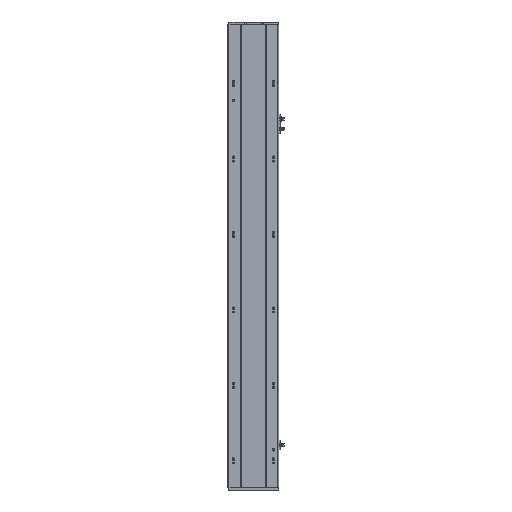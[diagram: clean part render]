
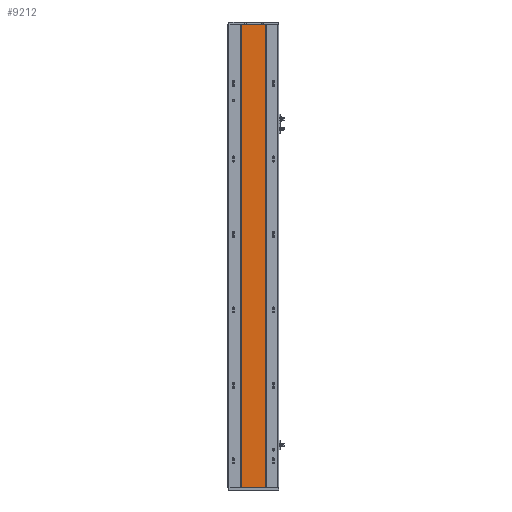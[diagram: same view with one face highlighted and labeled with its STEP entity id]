
A CAD part, front view. The second image highlights one B-rep face of the part: STEP entity #9212.
In plain terms, the highlighted planar face has unit normal (0, -1, 0).
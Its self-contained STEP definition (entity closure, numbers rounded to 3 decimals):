
#658 = CARTESIAN_POINT ( 'NONE',  ( 2995.466, 228.884, 0. ) ) ;
#808 = CARTESIAN_POINT ( 'NONE',  ( 2995.466, 228.884, 1228. ) ) ;
#1373 = VERTEX_POINT ( 'NONE', #2774 ) ;
#1424 = AXIS2_PLACEMENT_3D ( 'NONE', #12688, #20499, #9269 ) ;
#1723 = DIRECTION ( 'NONE',  ( 0., 0., -1. ) ) ;
#2019 = ORIENTED_EDGE ( 'NONE', *, *, #18735, .F. ) ;
#2245 = DIRECTION ( 'NONE',  ( 1., 0., 0. ) ) ;
#2774 = CARTESIAN_POINT ( 'NONE',  ( 2930.715, 228.884, 0. ) ) ;
#3348 = VERTEX_POINT ( 'NONE', #20465 ) ;
#4005 = CARTESIAN_POINT ( 'NONE',  ( 2930.715, 228.884, 1228. ) ) ;
#4535 = EDGE_CURVE ( 'NONE', #19432, #11047, #7016, .T. ) ;
#5199 = VECTOR ( 'NONE', #1723, 1000. ) ;
#5375 = DIRECTION ( 'NONE',  ( 0., 0., -1. ) ) ;
#5592 = CARTESIAN_POINT ( 'NONE',  ( 2995.466, 228.884, 1228. ) ) ;
#6100 = VECTOR ( 'NONE', #15815, 1000. ) ;
#6103 = EDGE_CURVE ( 'NONE', #1373, #11047, #6441, .T. ) ;
#6441 = LINE ( 'NONE', #7994, #6100 ) ;
#6977 = EDGE_LOOP ( 'NONE', ( #9038, #13608, #2019, #8901 ) ) ;
#7016 = LINE ( 'NONE', #5592, #13516 ) ;
#7994 = CARTESIAN_POINT ( 'NONE',  ( 2963.091, 228.884, 0. ) ) ;
#8111 = VECTOR ( 'NONE', #2245, 1000. ) ;
#8595 = EDGE_CURVE ( 'NONE', #3348, #1373, #15666, .T. ) ;
#8901 = ORIENTED_EDGE ( 'NONE', *, *, #8595, .T. ) ;
#9038 = ORIENTED_EDGE ( 'NONE', *, *, #6103, .T. ) ;
#9212 = ADVANCED_FACE ( 'NONE', ( #17193 ), #18632, .F. ) ;
#9269 = DIRECTION ( 'NONE',  ( 0., 0., 1. ) ) ;
#11047 = VERTEX_POINT ( 'NONE', #658 ) ;
#12688 = CARTESIAN_POINT ( 'NONE',  ( 2963.091, 228.884, 1228. ) ) ;
#12742 = CARTESIAN_POINT ( 'NONE',  ( 2930.715, 228.884, 1228. ) ) ;
#13516 = VECTOR ( 'NONE', #5375, 1000. ) ;
#13608 = ORIENTED_EDGE ( 'NONE', *, *, #4535, .F. ) ;
#15666 = LINE ( 'NONE', #12742, #5199 ) ;
#15815 = DIRECTION ( 'NONE',  ( 1., 0., 0. ) ) ;
#16583 = LINE ( 'NONE', #4005, #8111 ) ;
#17193 = FACE_OUTER_BOUND ( 'NONE', #6977, .T. ) ;
#18632 = PLANE ( 'NONE',  #1424 ) ;
#18735 = EDGE_CURVE ( 'NONE', #3348, #19432, #16583, .T. ) ;
#19432 = VERTEX_POINT ( 'NONE', #808 ) ;
#20465 = CARTESIAN_POINT ( 'NONE',  ( 2930.715, 228.884, 1228. ) ) ;
#20499 = DIRECTION ( 'NONE',  ( 0., 1., 0. ) ) ;
